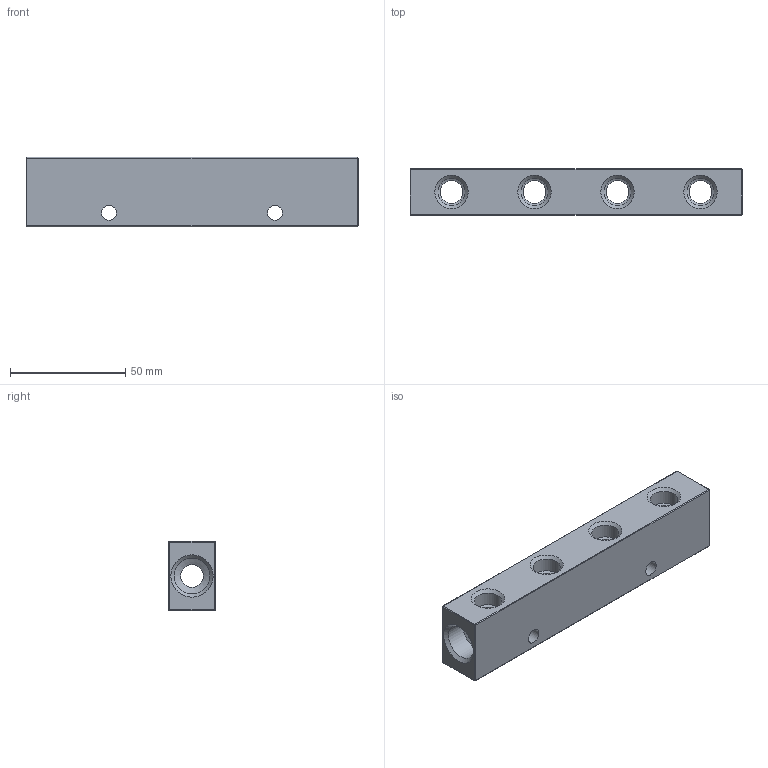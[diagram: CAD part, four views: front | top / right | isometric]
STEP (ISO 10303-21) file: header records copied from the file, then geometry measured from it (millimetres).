
FILE_DESCRIPTION(/* description */ (''),/* implementation_level */ '2;1');
FILE_NAME(/* name */ 'S:\_Tecnico\ArchivioUT\_Disegni3D ingombri\DISEGNI 3D per ingombri\RL\RL52381444.stp',/* time_stamp */ '2020-02-20T14:19:38+01:00',/* author */ ('UfficioTecnico'),/* organization */ (''),/* preprocessor_version */ 'ST-DEVELOPER v18',/* originating_system */ 'Autodesk Inventor 2020',/* authorisation */ '');
FILE_SCHEMA (('AUTOMOTIVE_DESIGN { 1 0 10303 214 3 1 1 }'));
Length unit declared in the file: millimetre
Products named in the file (1): RL51381404
Bounding box: 144 x 20 x 30 mm (x, y, z)
Volume: 62193.4 mm3; surface area: 22350 mm2
Topology: 1 solids, 1 shells, 71 faces, 181 edges, 104 vertices
Faces by surface type: cylinder 37, cone 20, sphere 8, plane 6
Full cylindrical faces by diameter (mm): 6.5 x2, 10 x13, 11.89 x8, 15.395 x2
Entity records: 2232 total; most frequent: DIRECTION 437, ORIENTED_EDGE 362, CARTESIAN_POINT 357, AXIS2_PLACEMENT_3D 184, EDGE_CURVE 181, VERTEX_POINT 104, CIRCLE 88, EDGE_LOOP 85
